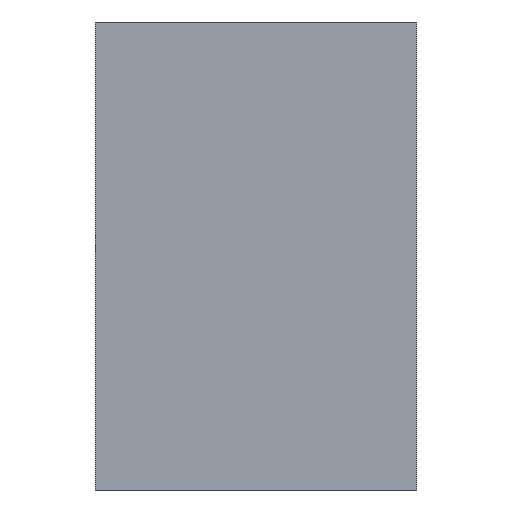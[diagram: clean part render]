
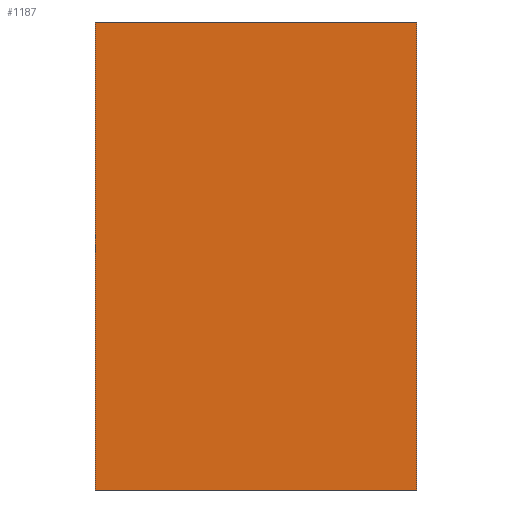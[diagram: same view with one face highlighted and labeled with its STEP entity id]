
A CAD part, front view. The second image highlights one B-rep face of the part: STEP entity #1187.
In plain terms, the highlighted planar face has unit normal (0, -1, 0).
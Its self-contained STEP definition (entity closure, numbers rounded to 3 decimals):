
#72 = PLANE('',#73);
#73 = AXIS2_PLACEMENT_3D('',#74,#75,#76);
#74 = CARTESIAN_POINT('',(-5.,-68.,-124.));
#75 = DIRECTION('',(0.,0.,1.));
#76 = DIRECTION('',(1.,0.,0.));
#126 = PLANE('',#127);
#127 = AXIS2_PLACEMENT_3D('',#128,#129,#130);
#128 = CARTESIAN_POINT('',(-5.,-68.,-60.));
#129 = DIRECTION('',(0.,0.,1.));
#130 = DIRECTION('',(1.,0.,0.));
#426 = PLANE('',#427);
#427 = AXIS2_PLACEMENT_3D('',#428,#429,#430);
#428 = CARTESIAN_POINT('',(-45.,-68.,-124.));
#429 = DIRECTION('',(1.,0.,0.));
#430 = DIRECTION('',(0.,0.,1.));
#466 = VERTEX_POINT('',#467);
#467 = CARTESIAN_POINT('',(-45.,-68.,-60.));
#488 = EDGE_CURVE('',#466,#489,#491,.T.);
#489 = VERTEX_POINT('',#490);
#490 = CARTESIAN_POINT('',(-1.,-68.,-60.));
#491 = SURFACE_CURVE('',#492,(#496,#503),.PCURVE_S1.);
#492 = LINE('',#493,#494);
#493 = CARTESIAN_POINT('',(-45.,-68.,-60.));
#494 = VECTOR('',#495,1.);
#495 = DIRECTION('',(1.,0.,0.));
#496 = PCURVE('',#126,#497);
#497 = DEFINITIONAL_REPRESENTATION('',(#498),#502);
#498 = LINE('',#499,#500);
#499 = CARTESIAN_POINT('',(-40.,0.));
#500 = VECTOR('',#501,1.);
#501 = DIRECTION('',(1.,0.));
#502 = ( GEOMETRIC_REPRESENTATION_CONTEXT(2) 
PARAMETRIC_REPRESENTATION_CONTEXT() REPRESENTATION_CONTEXT('2D SPACE',''
  ) );
#503 = PCURVE('',#504,#509);
#504 = PLANE('',#505);
#505 = AXIS2_PLACEMENT_3D('',#506,#507,#508);
#506 = CARTESIAN_POINT('',(-5.,-68.,-124.));
#507 = DIRECTION('',(0.,1.,0.));
#508 = DIRECTION('',(0.,0.,1.));
#509 = DEFINITIONAL_REPRESENTATION('',(#510),#514);
#510 = LINE('',#511,#512);
#511 = CARTESIAN_POINT('',(64.,-40.));
#512 = VECTOR('',#513,1.);
#513 = DIRECTION('',(0.,1.));
#514 = ( GEOMETRIC_REPRESENTATION_CONTEXT(2) 
PARAMETRIC_REPRESENTATION_CONTEXT() REPRESENTATION_CONTEXT('2D SPACE',''
  ) );
#532 = PLANE('',#533);
#533 = AXIS2_PLACEMENT_3D('',#534,#535,#536);
#534 = CARTESIAN_POINT('',(-1.,-68.,-124.));
#535 = DIRECTION('',(1.,0.,0.));
#536 = DIRECTION('',(0.,0.,1.));
#620 = VERTEX_POINT('',#621);
#621 = CARTESIAN_POINT('',(-45.,-68.,-124.));
#642 = EDGE_CURVE('',#643,#620,#645,.T.);
#643 = VERTEX_POINT('',#644);
#644 = CARTESIAN_POINT('',(-1.,-68.,-124.));
#645 = SURFACE_CURVE('',#646,(#650,#657),.PCURVE_S1.);
#646 = LINE('',#647,#648);
#647 = CARTESIAN_POINT('',(-1.,-68.,-124.));
#648 = VECTOR('',#649,1.);
#649 = DIRECTION('',(-1.,0.,0.));
#650 = PCURVE('',#72,#651);
#651 = DEFINITIONAL_REPRESENTATION('',(#652),#656);
#652 = LINE('',#653,#654);
#653 = CARTESIAN_POINT('',(4.,0.));
#654 = VECTOR('',#655,1.);
#655 = DIRECTION('',(-1.,0.));
#656 = ( GEOMETRIC_REPRESENTATION_CONTEXT(2) 
PARAMETRIC_REPRESENTATION_CONTEXT() REPRESENTATION_CONTEXT('2D SPACE',''
  ) );
#657 = PCURVE('',#504,#658);
#658 = DEFINITIONAL_REPRESENTATION('',(#659),#663);
#659 = LINE('',#660,#661);
#660 = CARTESIAN_POINT('',(0.,4.));
#661 = VECTOR('',#662,1.);
#662 = DIRECTION('',(0.,-1.));
#663 = ( GEOMETRIC_REPRESENTATION_CONTEXT(2) 
PARAMETRIC_REPRESENTATION_CONTEXT() REPRESENTATION_CONTEXT('2D SPACE',''
  ) );
#1094 = EDGE_CURVE('',#620,#466,#1095,.T.);
#1095 = SURFACE_CURVE('',#1096,(#1100,#1107),.PCURVE_S1.);
#1096 = LINE('',#1097,#1098);
#1097 = CARTESIAN_POINT('',(-45.,-68.,-124.));
#1098 = VECTOR('',#1099,1.);
#1099 = DIRECTION('',(0.,0.,1.));
#1100 = PCURVE('',#426,#1101);
#1101 = DEFINITIONAL_REPRESENTATION('',(#1102),#1106);
#1102 = LINE('',#1103,#1104);
#1103 = CARTESIAN_POINT('',(0.,0.));
#1104 = VECTOR('',#1105,1.);
#1105 = DIRECTION('',(1.,0.));
#1106 = ( GEOMETRIC_REPRESENTATION_CONTEXT(2) 
PARAMETRIC_REPRESENTATION_CONTEXT() REPRESENTATION_CONTEXT('2D SPACE',''
  ) );
#1107 = PCURVE('',#504,#1108);
#1108 = DEFINITIONAL_REPRESENTATION('',(#1109),#1113);
#1109 = LINE('',#1110,#1111);
#1110 = CARTESIAN_POINT('',(0.,-40.));
#1111 = VECTOR('',#1112,1.);
#1112 = DIRECTION('',(1.,0.));
#1113 = ( GEOMETRIC_REPRESENTATION_CONTEXT(2) 
PARAMETRIC_REPRESENTATION_CONTEXT() REPRESENTATION_CONTEXT('2D SPACE',''
  ) );
#1187 = ADVANCED_FACE('',(#1188),#504,.F.);
#1188 = FACE_BOUND('',#1189,.F.);
#1189 = EDGE_LOOP('',(#1190,#1191,#1192,#1193));
#1190 = ORIENTED_EDGE('',*,*,#642,.T.);
#1191 = ORIENTED_EDGE('',*,*,#1094,.T.);
#1192 = ORIENTED_EDGE('',*,*,#488,.T.);
#1193 = ORIENTED_EDGE('',*,*,#1194,.F.);
#1194 = EDGE_CURVE('',#643,#489,#1195,.T.);
#1195 = SURFACE_CURVE('',#1196,(#1200,#1207),.PCURVE_S1.);
#1196 = LINE('',#1197,#1198);
#1197 = CARTESIAN_POINT('',(-1.,-68.,-124.));
#1198 = VECTOR('',#1199,1.);
#1199 = DIRECTION('',(0.,0.,1.));
#1200 = PCURVE('',#504,#1201);
#1201 = DEFINITIONAL_REPRESENTATION('',(#1202),#1206);
#1202 = LINE('',#1203,#1204);
#1203 = CARTESIAN_POINT('',(0.,4.));
#1204 = VECTOR('',#1205,1.);
#1205 = DIRECTION('',(1.,0.));
#1206 = ( GEOMETRIC_REPRESENTATION_CONTEXT(2) 
PARAMETRIC_REPRESENTATION_CONTEXT() REPRESENTATION_CONTEXT('2D SPACE',''
  ) );
#1207 = PCURVE('',#532,#1208);
#1208 = DEFINITIONAL_REPRESENTATION('',(#1209),#1213);
#1209 = LINE('',#1210,#1211);
#1210 = CARTESIAN_POINT('',(0.,0.));
#1211 = VECTOR('',#1212,1.);
#1212 = DIRECTION('',(1.,0.));
#1213 = ( GEOMETRIC_REPRESENTATION_CONTEXT(2) 
PARAMETRIC_REPRESENTATION_CONTEXT() REPRESENTATION_CONTEXT('2D SPACE',''
  ) );
